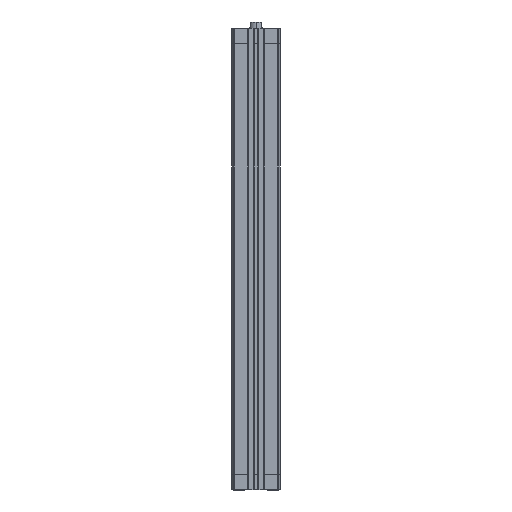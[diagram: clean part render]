
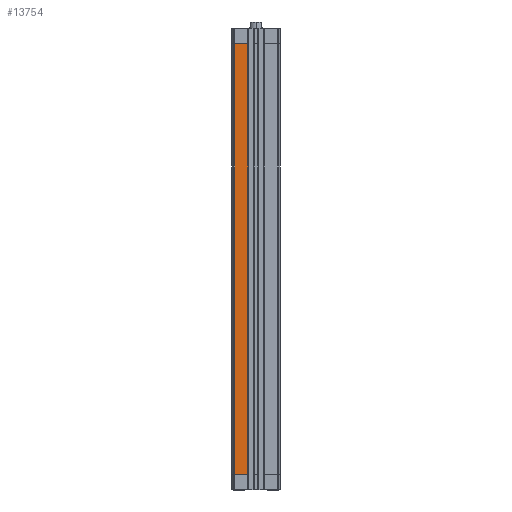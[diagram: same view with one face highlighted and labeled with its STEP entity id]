
A CAD part, left-side view. The second image highlights one B-rep face of the part: STEP entity #13754.
In plain terms, the highlighted planar face has unit normal (-1, 0, 0).
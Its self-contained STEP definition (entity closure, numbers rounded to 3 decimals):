
#443 = EDGE_CURVE ( 'NONE', #11568, #6945, #11519, .T. ) ;
#533 = DIRECTION ( 'NONE',  ( 0., 0., -1. ) ) ;
#618 = CARTESIAN_POINT ( 'NONE',  ( -23.25, 20.543, -15. ) ) ;
#1192 = FACE_OUTER_BOUND ( 'NONE', #4043, .T. ) ;
#1684 = EDGE_CURVE ( 'NONE', #6945, #1717, #8566, .T. ) ;
#1717 = VERTEX_POINT ( 'NONE', #7343 ) ;
#2129 = VECTOR ( 'NONE', #3583, 1000. ) ;
#3423 = EDGE_CURVE ( 'NONE', #7057, #1717, #5473, .T. ) ;
#3435 = EDGE_CURVE ( 'NONE', #7057, #11568, #13892, .T. ) ;
#3467 = PLANE ( 'NONE',  #13005 ) ;
#3507 = CARTESIAN_POINT ( 'NONE',  ( -23.25, 20.543, -429. ) ) ;
#3583 = DIRECTION ( 'NONE',  ( 0., -1., 0. ) ) ;
#4043 = EDGE_LOOP ( 'NONE', ( #4307, #10143, #11903, #8559 ) ) ;
#4229 = CARTESIAN_POINT ( 'NONE',  ( -23.25, 0., -15. ) ) ;
#4307 = ORIENTED_EDGE ( 'NONE', *, *, #1684, .T. ) ;
#5473 = LINE ( 'NONE', #8970, #10735 ) ;
#5941 = DIRECTION ( 'NONE',  ( -1., 0., 0. ) ) ;
#6226 = CARTESIAN_POINT ( 'NONE',  ( -23.25, 7.95, -15. ) ) ;
#6945 = VERTEX_POINT ( 'NONE', #3507 ) ;
#7057 = VERTEX_POINT ( 'NONE', #6226 ) ;
#7343 = CARTESIAN_POINT ( 'NONE',  ( -23.25, 7.95, -429. ) ) ;
#8233 = VECTOR ( 'NONE', #13248, 1000. ) ;
#8559 = ORIENTED_EDGE ( 'NONE', *, *, #443, .T. ) ;
#8566 = LINE ( 'NONE', #9658, #2129 ) ;
#8970 = CARTESIAN_POINT ( 'NONE',  ( -23.25, 7.95, -429. ) ) ;
#9496 = CARTESIAN_POINT ( 'NONE',  ( -23.25, 20.543, -429. ) ) ;
#9658 = CARTESIAN_POINT ( 'NONE',  ( -23.25, 20.543, -429. ) ) ;
#10143 = ORIENTED_EDGE ( 'NONE', *, *, #3423, .F. ) ;
#10351 = VECTOR ( 'NONE', #13841, 1000. ) ;
#10735 = VECTOR ( 'NONE', #533, 1000. ) ;
#11519 = LINE ( 'NONE', #12053, #8233 ) ;
#11568 = VERTEX_POINT ( 'NONE', #618 ) ;
#11903 = ORIENTED_EDGE ( 'NONE', *, *, #3435, .T. ) ;
#12053 = CARTESIAN_POINT ( 'NONE',  ( -23.25, 20.543, -429. ) ) ;
#13005 = AXIS2_PLACEMENT_3D ( 'NONE', #9496, #5941, #14309 ) ;
#13248 = DIRECTION ( 'NONE',  ( 0., 0., -1. ) ) ;
#13754 = ADVANCED_FACE ( 'NONE', ( #1192 ), #3467, .T. ) ;
#13841 = DIRECTION ( 'NONE',  ( 0., 1., 0. ) ) ;
#13892 = LINE ( 'NONE', #4229, #10351 ) ;
#14309 = DIRECTION ( 'NONE',  ( 0., 0., 1. ) ) ;
